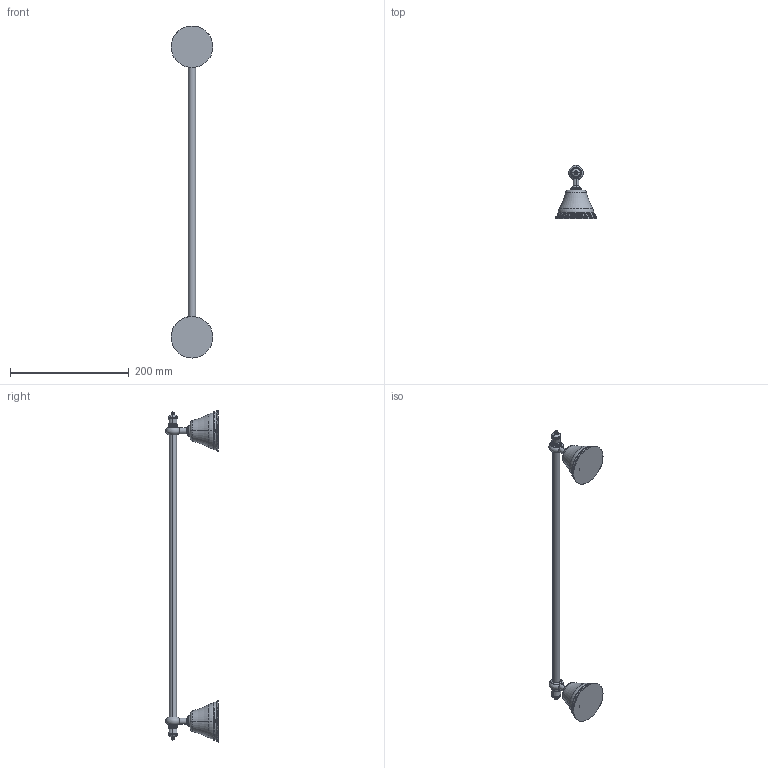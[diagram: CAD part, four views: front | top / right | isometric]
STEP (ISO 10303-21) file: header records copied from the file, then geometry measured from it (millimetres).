
FILE_DESCRIPTION((''),'2;1');
FILE_NAME('37304--00','2026-09-10T13:35:04',('clra1'),(''),'CREO PARAMETRIC BY PTC INC, 2022244','CREO PARAMETRIC BY PTC INC, 2022244','');
FILE_SCHEMA(('CONFIG_CONTROL_DESIGN'));
Length unit declared in the file: millimetre
Products named in the file (1): 37304--00
Bounding box: 70 x 88.48 x 558.5 mm (x, y, z)
Surface area: 56785.7 mm2 (no closed solid volume)
Topology: 0 solids, 19 shells, 205 faces, 462 edges, 260 vertices
Faces by surface type: torus 117, cylinder 52, plane 12, bspline 8, cone 8, sphere 8
Entity records: 7818 total; most frequent: CARTESIAN_POINT 3179, DIRECTION 1146, ORIENTED_EDGE 846, AXIS2_PLACEMENT_3D 539, EDGE_CURVE 458, CIRCLE 342, VERTEX_POINT 260, EDGE_LOOP 205
